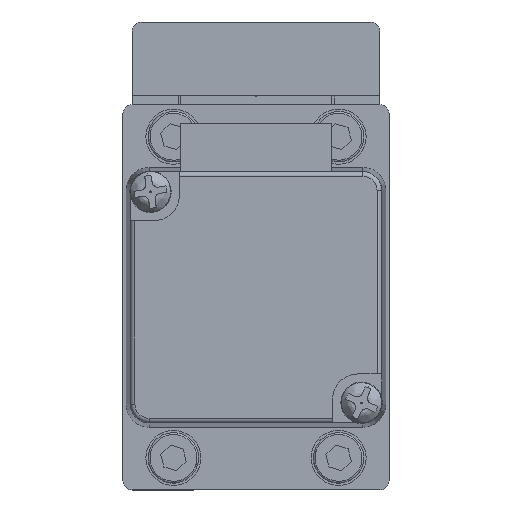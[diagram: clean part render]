
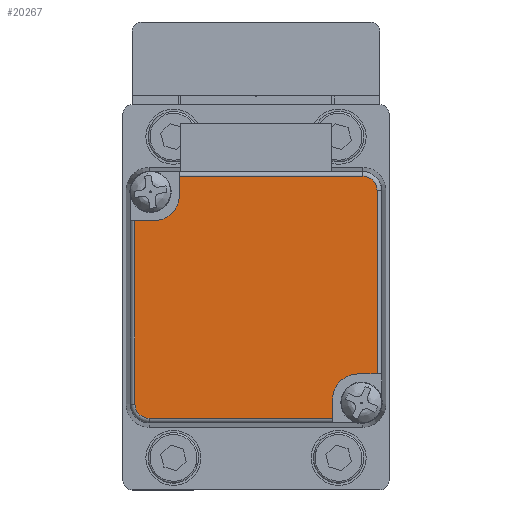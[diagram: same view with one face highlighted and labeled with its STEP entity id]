
A CAD part, left-side view. The second image highlights one B-rep face of the part: STEP entity #20267.
In plain terms, the highlighted planar face has unit normal (-1, 0, 0) as drawn and (0, 0, 1) by its records, which use the part's own axes.
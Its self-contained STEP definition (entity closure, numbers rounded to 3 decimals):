
#250 = VERTEX_POINT ( 'NONE', #5492 ) ;
#474 = LINE ( 'NONE', #6620, #4190 ) ;
#652 = CARTESIAN_POINT ( 'NONE',  ( 12.409, 5.873, 109.75 ) ) ;
#677 = CIRCLE ( 'NONE', #16211, 1.542 ) ;
#806 = CARTESIAN_POINT ( 'NONE',  ( 13.951, 5.873, 109.75 ) ) ;
#850 = DIRECTION ( 'NONE',  ( 1., 0., 0. ) ) ;
#975 = VERTEX_POINT ( 'NONE', #15012 ) ;
#1159 = LINE ( 'NONE', #5115, #13848 ) ;
#1461 = ORIENTED_EDGE ( 'NONE', *, *, #10883, .F. ) ;
#1494 = AXIS2_PLACEMENT_3D ( 'NONE', #652, #11752, #2240 ) ;
#2175 = CARTESIAN_POINT ( 'NONE',  ( -10.343, -14.13, 109.75 ) ) ;
#2221 = LINE ( 'NONE', #15194, #10690 ) ;
#2240 = DIRECTION ( 'NONE',  ( 0., -1., 0. ) ) ;
#2988 = LINE ( 'NONE', #18247, #10952 ) ;
#3024 = VERTEX_POINT ( 'NONE', #5473 ) ;
#3198 = VECTOR ( 'NONE', #13368, 1000. ) ;
#3524 = DIRECTION ( 'NONE',  ( 0., 0., 1. ) ) ;
#3842 = CARTESIAN_POINT ( 'NONE',  ( 12.409, -18.969, 109.75 ) ) ;
#3886 = CARTESIAN_POINT ( 'NONE',  ( -10.891, 5.873, 109.75 ) ) ;
#3949 = VERTEX_POINT ( 'NONE', #17239 ) ;
#4190 = VECTOR ( 'NONE', #8220, 1000. ) ;
#4370 = VERTEX_POINT ( 'NONE', #8774 ) ;
#4837 = DIRECTION ( 'NONE',  ( 0., 0., 1. ) ) ;
#4948 = CARTESIAN_POINT ( 'NONE',  ( -10.891, 7.415, 109.75 ) ) ;
#5021 = AXIS2_PLACEMENT_3D ( 'NONE', #13046, #3524, #14629 ) ;
#5115 = CARTESIAN_POINT ( 'NONE',  ( -10.891, 7.415, 109.75 ) ) ;
#5376 = VERTEX_POINT ( 'NONE', #8011 ) ;
#5445 = ORIENTED_EDGE ( 'NONE', *, *, #17214, .T. ) ;
#5473 = CARTESIAN_POINT ( 'NONE',  ( 13.951, -17.427, 109.75 ) ) ;
#5481 = DIRECTION ( 'NONE',  ( 0., -1., 0. ) ) ;
#5492 = CARTESIAN_POINT ( 'NONE',  ( -12.432, -14.13, 109.75 ) ) ;
#5701 = DIRECTION ( 'NONE',  ( 0., -1., 0. ) ) ;
#5757 = EDGE_LOOP ( 'NONE', ( #10703, #12418, #9946, #11665, #5445, #7728, #1461, #19389, #9036, #18932, #16482, #14014 ) ) ;
#5866 = AXIS2_PLACEMENT_3D ( 'NONE', #14367, #4837, #15950 ) ;
#5910 = CARTESIAN_POINT ( 'NONE',  ( 11.862, 5.325, 109.75 ) ) ;
#5913 = CARTESIAN_POINT ( 'NONE',  ( 9.112, 7.415, 109.75 ) ) ;
#6137 = VERTEX_POINT ( 'NONE', #2175 ) ;
#6620 = CARTESIAN_POINT ( 'NONE',  ( -7.593, -16.88, 109.75 ) ) ;
#7405 = CIRCLE ( 'NONE', #5866, 2.75 ) ;
#7460 = CIRCLE ( 'NONE', #5021, 1.542 ) ;
#7532 = DIRECTION ( 'NONE',  ( 0., -1., 0. ) ) ;
#7728 = ORIENTED_EDGE ( 'NONE', *, *, #15639, .T. ) ;
#8011 = CARTESIAN_POINT ( 'NONE',  ( 9.112, 5.325, 109.75 ) ) ;
#8220 = DIRECTION ( 'NONE',  ( 0., 1., 0. ) ) ;
#8349 = VERTEX_POINT ( 'NONE', #17803 ) ;
#8774 = CARTESIAN_POINT ( 'NONE',  ( -12.432, 5.873, 109.75 ) ) ;
#9036 = ORIENTED_EDGE ( 'NONE', *, *, #16021, .F. ) ;
#9150 = EDGE_CURVE ( 'NONE', #3949, #975, #20410, .T. ) ;
#9360 = DIRECTION ( 'NONE',  ( -1., 0., 0. ) ) ;
#9368 = AXIS2_PLACEMENT_3D ( 'NONE', #5910, #17002, #7532 ) ;
#9675 = VERTEX_POINT ( 'NONE', #13561 ) ;
#9946 = ORIENTED_EDGE ( 'NONE', *, *, #11275, .F. ) ;
#10384 = CARTESIAN_POINT ( 'NONE',  ( 11.862, 2.575, 109.75 ) ) ;
#10472 = VECTOR ( 'NONE', #9360, 1000. ) ;
#10690 = VECTOR ( 'NONE', #5701, 1000. ) ;
#10703 = ORIENTED_EDGE ( 'NONE', *, *, #9150, .F. ) ;
#10754 = VERTEX_POINT ( 'NONE', #13219 ) ;
#10883 = EDGE_CURVE ( 'NONE', #6137, #250, #18859, .T. ) ;
#10952 = VECTOR ( 'NONE', #15071, 1000. ) ;
#11275 = EDGE_CURVE ( 'NONE', #15755, #5376, #2988, .T. ) ;
#11665 = ORIENTED_EDGE ( 'NONE', *, *, #17719, .T. ) ;
#11752 = DIRECTION ( 'NONE',  ( 0., 0., 1. ) ) ;
#12418 = ORIENTED_EDGE ( 'NONE', *, *, #13920, .F. ) ;
#13046 = CARTESIAN_POINT ( 'NONE',  ( 12.409, -17.427, 109.75 ) ) ;
#13219 = CARTESIAN_POINT ( 'NONE',  ( 12.409, -18.969, 109.75 ) ) ;
#13368 = DIRECTION ( 'NONE',  ( 1., 0., 0. ) ) ;
#13561 = CARTESIAN_POINT ( 'NONE',  ( -7.593, -16.88, 109.75 ) ) ;
#13848 = VECTOR ( 'NONE', #16223, 1000. ) ;
#13920 = EDGE_CURVE ( 'NONE', #5376, #3949, #20257, .T. ) ;
#14014 = ORIENTED_EDGE ( 'NONE', *, *, #14473, .T. ) ;
#14367 = CARTESIAN_POINT ( 'NONE',  ( -10.343, -16.88, 109.75 ) ) ;
#14473 = EDGE_CURVE ( 'NONE', #3024, #975, #19730, .T. ) ;
#14629 = DIRECTION ( 'NONE',  ( 0., -1., 0. ) ) ;
#14984 = DIRECTION ( 'NONE',  ( 0., 0., 1. ) ) ;
#15012 = CARTESIAN_POINT ( 'NONE',  ( 13.951, 2.575, 109.75 ) ) ;
#15071 = DIRECTION ( 'NONE',  ( 0., -1., 0. ) ) ;
#15194 = CARTESIAN_POINT ( 'NONE',  ( -12.432, -17.427, 109.75 ) ) ;
#15205 = FACE_OUTER_BOUND ( 'NONE', #5757, .T. ) ;
#15569 = VECTOR ( 'NONE', #19840, 1000. ) ;
#15639 = EDGE_CURVE ( 'NONE', #4370, #250, #2221, .T. ) ;
#15755 = VERTEX_POINT ( 'NONE', #5913 ) ;
#15950 = DIRECTION ( 'NONE',  ( 0., 1., 0. ) ) ;
#16021 = EDGE_CURVE ( 'NONE', #8349, #9675, #474, .T. ) ;
#16056 = EDGE_CURVE ( 'NONE', #10754, #3024, #7460, .T. ) ;
#16211 = AXIS2_PLACEMENT_3D ( 'NONE', #3886, #14984, #5481 ) ;
#16223 = DIRECTION ( 'NONE',  ( -1., 0., 0. ) ) ;
#16347 = LINE ( 'NONE', #3842, #3198 ) ;
#16482 = ORIENTED_EDGE ( 'NONE', *, *, #16056, .T. ) ;
#16564 = EDGE_CURVE ( 'NONE', #8349, #10754, #16347, .T. ) ;
#16727 = VECTOR ( 'NONE', #850, 1000. ) ;
#17002 = DIRECTION ( 'NONE',  ( 0., 0., 1. ) ) ;
#17214 = EDGE_CURVE ( 'NONE', #20071, #4370, #677, .T. ) ;
#17239 = CARTESIAN_POINT ( 'NONE',  ( 11.862, 2.575, 109.75 ) ) ;
#17586 = EDGE_CURVE ( 'NONE', #9675, #6137, #7405, .T. ) ;
#17719 = EDGE_CURVE ( 'NONE', #15755, #20071, #1159, .T. ) ;
#17803 = CARTESIAN_POINT ( 'NONE',  ( -7.593, -18.969, 109.75 ) ) ;
#18049 = PLANE ( 'NONE',  #1494 ) ;
#18247 = CARTESIAN_POINT ( 'NONE',  ( 9.112, 5.325, 109.75 ) ) ;
#18859 = LINE ( 'NONE', #20392, #10472 ) ;
#18932 = ORIENTED_EDGE ( 'NONE', *, *, #16564, .T. ) ;
#19389 = ORIENTED_EDGE ( 'NONE', *, *, #17586, .F. ) ;
#19730 = LINE ( 'NONE', #806, #15569 ) ;
#19840 = DIRECTION ( 'NONE',  ( 0., 1., 0. ) ) ;
#20071 = VERTEX_POINT ( 'NONE', #4948 ) ;
#20257 = CIRCLE ( 'NONE', #9368, 2.75 ) ;
#20267 = ADVANCED_FACE ( 'NONE', ( #15205 ), #18049, .T. ) ;
#20392 = CARTESIAN_POINT ( 'NONE',  ( -10.343, -14.13, 109.75 ) ) ;
#20410 = LINE ( 'NONE', #10384, #16727 ) ;
